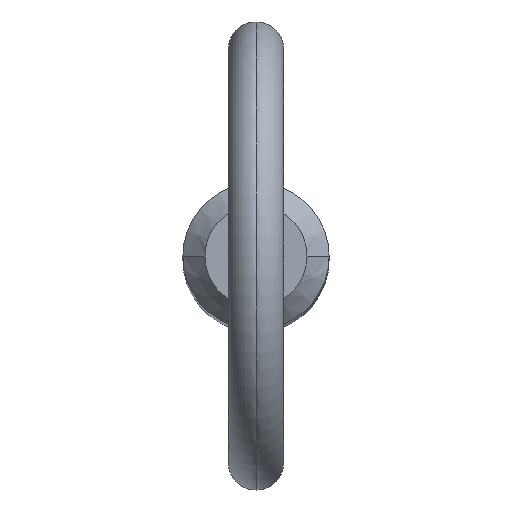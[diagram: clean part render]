
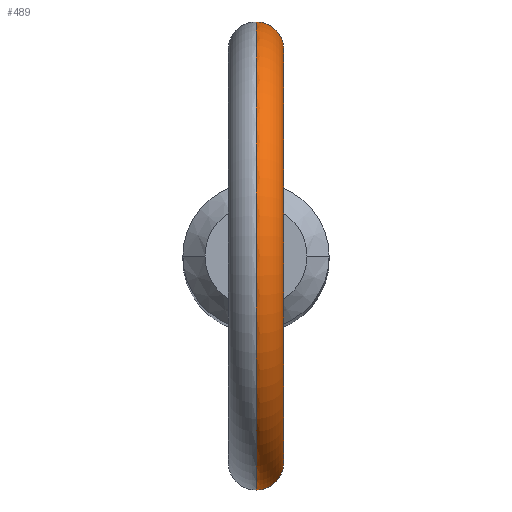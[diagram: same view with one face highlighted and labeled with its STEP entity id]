
A CAD part, top view. The second image highlights one B-rep face of the part: STEP entity #489.
In plain terms, the highlighted toroidal (fillet/blend) face has major radius 11.2 mm and minor radius 1.5 mm.
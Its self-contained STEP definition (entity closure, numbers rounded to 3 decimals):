
#4 = CARTESIAN_POINT ( 'NONE',  ( 0., 0., 96.5 ) ) ;
#5 = EDGE_CURVE ( 'NONE', #407, #27, #135, .T. ) ;
#6 = CARTESIAN_POINT ( 'NONE',  ( 0.204, 3.965, 84.435 ) ) ;
#9 = CARTESIAN_POINT ( 'NONE',  ( 0.41, 3.948, 84.474 ) ) ;
#10 = B_SPLINE_CURVE_WITH_KNOTS ( 'NONE', 3,
 ( #11, #328, #364, #286, #55, #327, #330, #410, #371, #90, #488, #92, #411, #367, #245, #123, #404, #448, #29, #379, #140, #219, #133, #502, #422, #34 ),
 .UNSPECIFIED., .F., .F.,
 ( 4, 2, 2, 2, 2, 2, 2, 2, 2, 2, 2, 2, 4 ),
 ( 0.004, 0.005, 0.005, 0.005, 0.006, 0.006, 0.007, 0.007, 0.007, 0.008, 0.008, 0.008, 0.009 ),
 .UNSPECIFIED. ) ;
#11 = CARTESIAN_POINT ( 'NONE',  ( 0., -3.965, 87.647 ) ) ;
#19 = B_SPLINE_CURVE_WITH_KNOTS ( 'NONE', 3,
 ( #432, #6, #9, #50, #121, #71, #196, #267, #347, #74, #356, #85, #393, #113, #111, #187, #226, #510, #87, #122, #403, #466 ),
 .UNSPECIFIED., .F., .F.,
 ( 4, 2, 2, 2, 2, 2, 2, 2, 2, 2, 4 ),
 ( 0.001, 0.001, 0.002, 0.002, 0.003, 0.003, 0.003, 0.004, 0.004, 0.005, 0.006 ),
 .UNSPECIFIED. ) ;
#23 = DIRECTION ( 'NONE',  ( 1., 0., 0. ) ) ;
#27 = VERTEX_POINT ( 'NONE', #258 ) ;
#29 = CARTESIAN_POINT ( 'NONE',  ( 1.237, -3.77, 85.031 ) ) ;
#34 = CARTESIAN_POINT ( 'NONE',  ( 0., -3.965, 84.435 ) ) ;
#36 = CARTESIAN_POINT ( 'NONE',  ( 0., -3.965, 87.647 ) ) ;
#43 = ORIENTED_EDGE ( 'NONE', *, *, #449, .F. ) ;
#50 = CARTESIAN_POINT ( 'NONE',  ( 0.691, 3.905, 84.589 ) ) ;
#55 = CARTESIAN_POINT ( 'NONE',  ( 0.498, -3.935, 87.544 ) ) ;
#69 = DIRECTION ( 'NONE',  ( 1., 0., 0. ) ) ;
#71 = CARTESIAN_POINT ( 'NONE',  ( 0.949, 3.851, 84.749 ) ) ;
#74 = CARTESIAN_POINT ( 'NONE',  ( 1.447, 3.692, 85.493 ) ) ;
#85 = CARTESIAN_POINT ( 'NONE',  ( 1.499, 3.671, 85.794 ) ) ;
#87 = CARTESIAN_POINT ( 'NONE',  ( 0.769, 3.894, 87.401 ) ) ;
#90 = CARTESIAN_POINT ( 'NONE',  ( 1.404, -3.708, 86.501 ) ) ;
#92 = CARTESIAN_POINT ( 'NONE',  ( 1.479, -3.679, 86.207 ) ) ;
#94 = CARTESIAN_POINT ( 'NONE',  ( 0., 0., 96.5 ) ) ;
#111 = CARTESIAN_POINT ( 'NONE',  ( 1.441, 3.695, 86.408 ) ) ;
#113 = CARTESIAN_POINT ( 'NONE',  ( 1.488, 3.675, 86.205 ) ) ;
#115 = AXIS2_PLACEMENT_3D ( 'NONE', #4, #398, #144 ) ;
#121 = CARTESIAN_POINT ( 'NONE',  ( 0.782, 3.888, 84.637 ) ) ;
#122 = CARTESIAN_POINT ( 'NONE',  ( 0.411, 3.948, 87.591 ) ) ;
#123 = CARTESIAN_POINT ( 'NONE',  ( 1.471, -3.682, 85.594 ) ) ;
#130 = DIRECTION ( 'NONE',  ( 0., 0., -1. ) ) ;
#133 = CARTESIAN_POINT ( 'NONE',  ( 0.693, -3.905, 84.59 ) ) ;
#135 = CIRCLE ( 'NONE', #241, 12.7 ) ;
#138 = CARTESIAN_POINT ( 'NONE',  ( 0., 0., 96.5 ) ) ;
#140 = CARTESIAN_POINT ( 'NONE',  ( 0.949, -3.851, 84.749 ) ) ;
#144 = DIRECTION ( 'NONE',  ( 0., 0., -1. ) ) ;
#156 = TOROIDAL_SURFACE ( 'NONE', #115, 11.2, 1.5 ) ;
#161 = ORIENTED_EDGE ( 'NONE', *, *, #412, .F. ) ;
#164 = EDGE_LOOP ( 'NONE', ( #161, #459, #43, #295 ) ) ;
#176 = VERTEX_POINT ( 'NONE', #36 ) ;
#187 = CARTESIAN_POINT ( 'NONE',  ( 1.291, 3.75, 86.784 ) ) ;
#196 = CARTESIAN_POINT ( 'NONE',  ( 1.026, 3.831, 84.813 ) ) ;
#216 = CARTESIAN_POINT ( 'NONE',  ( 0., 3.965, 87.647 ) ) ;
#219 = CARTESIAN_POINT ( 'NONE',  ( 0.782, -3.888, 84.637 ) ) ;
#226 = CARTESIAN_POINT ( 'NONE',  ( 1.185, 3.786, 86.96 ) ) ;
#228 = CARTESIAN_POINT ( 'NONE',  ( 0., 3.965, 84.435 ) ) ;
#241 = AXIS2_PLACEMENT_3D ( 'NONE', #94, #23, #130 ) ;
#245 = CARTESIAN_POINT ( 'NONE',  ( 1.499, -3.671, 85.797 ) ) ;
#258 = CARTESIAN_POINT ( 'NONE',  ( 0., -3.965, 84.435 ) ) ;
#267 = CARTESIAN_POINT ( 'NONE',  ( 1.236, 3.77, 85.029 ) ) ;
#286 = CARTESIAN_POINT ( 'NONE',  ( 0.404, -3.946, 87.582 ) ) ;
#295 = ORIENTED_EDGE ( 'NONE', *, *, #321, .F. ) ;
#296 = AXIS2_PLACEMENT_3D ( 'NONE', #138, #69, #301 ) ;
#301 = DIRECTION ( 'NONE',  ( 0., 0., -1. ) ) ;
#302 = CIRCLE ( 'NONE', #296, 9.7 ) ;
#321 = EDGE_CURVE ( 'NONE', #370, #176, #302, .T. ) ;
#327 = CARTESIAN_POINT ( 'NONE',  ( 0.77, -3.894, 87.4 ) ) ;
#328 = CARTESIAN_POINT ( 'NONE',  ( 0.102, -3.965, 87.647 ) ) ;
#330 = CARTESIAN_POINT ( 'NONE',  ( 0.925, -3.858, 87.268 ) ) ;
#347 = CARTESIAN_POINT ( 'NONE',  ( 1.344, 3.731, 85.203 ) ) ;
#356 = CARTESIAN_POINT ( 'NONE',  ( 1.47, 3.682, 85.592 ) ) ;
#364 = CARTESIAN_POINT ( 'NONE',  ( 0.205, -3.961, 87.634 ) ) ;
#367 = CARTESIAN_POINT ( 'NONE',  ( 1.503, -3.669, 85.899 ) ) ;
#369 = FACE_OUTER_BOUND ( 'NONE', #164, .T. ) ;
#370 = VERTEX_POINT ( 'NONE', #216 ) ;
#371 = CARTESIAN_POINT ( 'NONE',  ( 1.291, -3.75, 86.783 ) ) ;
#379 = CARTESIAN_POINT ( 'NONE',  ( 1.028, -3.83, 84.815 ) ) ;
#393 = CARTESIAN_POINT ( 'NONE',  ( 1.503, 3.669, 85.898 ) ) ;
#398 = DIRECTION ( 'NONE',  ( 1., 0., 0. ) ) ;
#403 = CARTESIAN_POINT ( 'NONE',  ( 0.206, 3.965, 87.647 ) ) ;
#404 = CARTESIAN_POINT ( 'NONE',  ( 1.447, -3.692, 85.493 ) ) ;
#407 = VERTEX_POINT ( 'NONE', #228 ) ;
#410 = CARTESIAN_POINT ( 'NONE',  ( 1.186, -3.786, 86.959 ) ) ;
#411 = CARTESIAN_POINT ( 'NONE',  ( 1.493, -3.673, 86.104 ) ) ;
#412 = EDGE_CURVE ( 'NONE', #407, #370, #19, .T. ) ;
#422 = CARTESIAN_POINT ( 'NONE',  ( 0.205, -3.965, 84.435 ) ) ;
#432 = CARTESIAN_POINT ( 'NONE',  ( 0., 3.965, 84.435 ) ) ;
#448 = CARTESIAN_POINT ( 'NONE',  ( 1.346, -3.73, 85.208 ) ) ;
#449 = EDGE_CURVE ( 'NONE', #176, #27, #10, .T. ) ;
#459 = ORIENTED_EDGE ( 'NONE', *, *, #5, .T. ) ;
#466 = CARTESIAN_POINT ( 'NONE',  ( 0., 3.965, 87.647 ) ) ;
#488 = CARTESIAN_POINT ( 'NONE',  ( 1.434, -3.697, 86.405 ) ) ;
#489 = ADVANCED_FACE ( 'NONE', ( #369 ), #156, .T. ) ;
#502 = CARTESIAN_POINT ( 'NONE',  ( 0.409, -3.948, 84.474 ) ) ;
#510 = CARTESIAN_POINT ( 'NONE',  ( 0.927, 3.858, 87.267 ) ) ;
